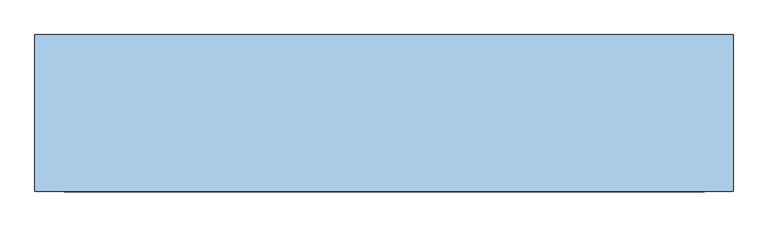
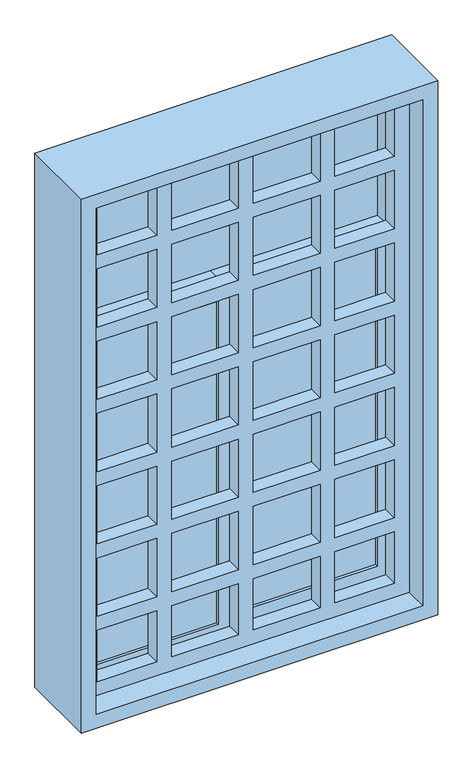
"""IFC4 building model written with IfcOpenShell, lengths in millimetres: window geometry, LC9_带格栅 : LC9_带格栅."""

from ifc_helpers import new_model, si_unit, frame, origin, place, context, project, spatial, polyline, outline, extrude, source, transform, mapped, element, save


def window_f154a97f(model_context):
    return source(origin(), model_context, "Body", "SweptSolid", [
        extrude(outline(polyline([(3350.0, 550.0), (3350.0, -550.0), (1550.0, -550.0), (1550.0, 550.0), (3350.0, 550.0)]), holes=[polyline([(3300.0, -300.0), (3117.8571429, -300.0), (3117.8571429, -500.0), (3300.0, -500.0), (3300.0, -300.0)]), polyline([(3300.0, -25.0), (3117.8571429, -25.0), (3117.8571429, -250.0), (3300.0, -250.0), (3300.0, -25.0)]), polyline([(3300.0, 250.0), (3117.8571429, 250.0), (3117.8571429, 25.0), (3300.0, 25.0), (3300.0, 250.0)]), polyline([(3300.0, 500.0), (3117.8571429, 500.0), (3117.8571429, 300.0), (3300.0, 300.0), (3300.0, 500.0)]), polyline([(3067.8571429, -300.0), (2860.7142857, -300.0), (2860.7142857, -500.0), (3067.8571429, -500.0), (3067.8571429, -300.0)]), polyline([(3067.8571429, -25.0), (2860.7142857, -25.0), (2860.7142857, -250.0), (3067.8571429, -250.0), (3067.8571429, -25.0)]), polyline([(3067.8571429, 250.0), (2860.7142857, 250.0), (2860.7142857, 25.0), (3067.8571429, 25.0), (3067.8571429, 250.0)]), polyline([(3067.8571429, 500.0), (2860.7142857, 500.0), (2860.7142857, 300.0), (3067.8571429, 300.0), (3067.8571429, 500.0)]), polyline([(2810.7142857, -300.0), (2603.5714286, -300.0), (2603.5714286, -500.0), (2810.7142857, -500.0), (2810.7142857, -300.0)]), polyline([(2810.7142857, -25.0), (2603.5714286, -25.0), (2603.5714286, -250.0), (2810.7142857, -250.0), (2810.7142857, -25.0)]), polyline([(2810.7142857, 250.0), (2603.5714286, 250.0), (2603.5714286, 25.0), (2810.7142857, 25.0), (2810.7142857, 250.0)]), polyline([(2810.7142857, 500.0), (2603.5714286, 500.0), (2603.5714286, 300.0), (2810.7142857, 300.0), (2810.7142857, 500.0)]), polyline([(2553.5714286, -300.0), (2346.4285714, -300.0), (2346.4285714, -500.0), (2553.5714286, -500.0), (2553.5714286, -300.0)]), polyline([(2553.5714286, -25.0), (2346.4285714, -25.0), (2346.4285714, -250.0), (2553.5714286, -250.0), (2553.5714286, -25.0)]), polyline([(2553.5714286, 250.0), (2346.4285714, 250.0), (2346.4285714, 25.0), (2553.5714286, 25.0), (2553.5714286, 250.0)]), polyline([(2553.5714286, 500.0), (2346.4285714, 500.0), (2346.4285714, 300.0), (2553.5714286, 300.0), (2553.5714286, 500.0)]), polyline([(2296.4285714, -300.0), (2089.2857143, -300.0), (2089.2857143, -500.0), (2296.4285714, -500.0), (2296.4285714, -300.0)]), polyline([(2296.4285714, -25.0), (2089.2857143, -25.0), (2089.2857143, -250.0), (2296.4285714, -250.0), (2296.4285714, -25.0)]), polyline([(2296.4285714, 250.0), (2089.2857143, 250.0), (2089.2857143, 25.0), (2296.4285714, 25.0), (2296.4285714, 250.0)]), polyline([(2296.4285714, 500.0), (2089.2857143, 500.0), (2089.2857143, 300.0), (2296.4285714, 300.0), (2296.4285714, 500.0)]), polyline([(2039.2857143, -300.0), (1832.1428571, -300.0), (1832.1428571, -500.0), (2039.2857143, -500.0), (2039.2857143, -300.0)]), polyline([(2039.2857143, -25.0), (1832.1428571, -25.0), (1832.1428571, -250.0), (2039.2857143, -250.0), (2039.2857143, -25.0)]), polyline([(2039.2857143, 250.0), (1832.1428571, 250.0), (1832.1428571, 25.0), (2039.2857143, 25.0), (2039.2857143, 250.0)]), polyline([(2039.2857143, 500.0), (1832.1428571, 500.0), (1832.1428571, 300.0), (2039.2857143, 300.0), (2039.2857143, 500.0)]), polyline([(1782.1428571, -300.0), (1600.0, -300.0), (1600.0, -500.0), (1782.1428571, -500.0), (1782.1428571, -300.0)]), polyline([(1782.1428571, -25.0), (1600.0, -25.0), (1600.0, -250.0), (1782.1428571, -250.0), (1782.1428571, -25.0)]), polyline([(1782.1428571, 250.0), (1600.0, 250.0), (1600.0, 25.0), (1782.1428571, 25.0), (1782.1428571, 250.0)]), polyline([(1782.1428571, 500.0), (1600.0, 500.0), (1600.0, 300.0), (1782.1428571, 300.0), (1782.1428571, 500.0)])]), frame((0.0, -46.3011339, 0.0), z_axis=(0.0, 1.0, 0.0), x_axis=(0.0, 0.0, 1.0)), (0.0, 0.0, 1.0), 50.0),
        extrude(outline(polyline([(500.0, 63.7293154), (50.0, 63.7293154), (50.0, 68.7293154), (500.0, 68.7293154), (500.0, 63.7293154)])), frame((0.0, 0.0, 1600.0), z_axis=(0.0, 0.0, 1.0), x_axis=(1.0, 0.0, 0.0)), (0.0, 0.0, 1.0), 1150.0),
        extrude(outline(polyline([(-50.0, 38.7597648), (-500.0, 38.7597648), (-500.0, 43.7293154), (-50.0, 43.7293154), (-50.0, 38.7597648)])), frame((0.0, 0.0, 1600.0), z_axis=(0.0, 0.0, 1.0), x_axis=(1.0, 0.0, 0.0)), (0.0, 0.0, 1.0), 1150.0),
        extrude(outline(polyline([(3300.0, -6.8493518), (3300.0, -500.0), (2850.0, -500.0), (2850.0, -29.856949), (2850.0, 500.0), (3300.0, 500.0), (3300.0, -6.8493518)])), frame((0.0, 51.1988661, 0.0), z_axis=(0.0, 1.0, 0.0), x_axis=(0.0, 0.0, 1.0)), (0.0, 0.0, 1.0), 5.0),
        extrude(outline(polyline([(2800.0, 550.0), (2800.0, 0.0), (1550.0, 0.0), (1550.0, 550.0), (2800.0, 550.0)]), holes=[polyline([(2750.0, 500.0), (1600.0, 500.0), (1600.0, 50.0), (2750.0, 50.0), (2750.0, 500.0)])]), frame((0.0, 53.7293154, 0.0), z_axis=(0.0, 1.0, 0.0), x_axis=(0.0, 0.0, 1.0)), (0.0, 0.0, 1.0), 24.9695506),
        extrude(outline(polyline([(2800.0, 0.0), (2800.0, -550.0), (1550.0, -550.0), (1550.0, 0.0), (2800.0, 0.0)]), holes=[polyline([(2750.0, -50.0), (1600.0, -50.0), (1600.0, -500.0), (2750.0, -500.0), (2750.0, -50.0)])]), frame((0.0, 28.7597648, 0.0), z_axis=(0.0, 1.0, 0.0), x_axis=(0.0, 0.0, 1.0)), (0.0, 0.0, 1.0), 24.9391013),
        extrude(outline(polyline([(3350.0, 550.0), (3350.0, -550.0), (2800.0, -550.0), (2800.0, 1.4599267), (2800.0, 550.0), (3350.0, 550.0)]), holes=[polyline([(3300.0, -42.6389475), (3300.0, 500.0), (2850.0, 500.0), (2850.0, -63.7820671), (2850.0, -500.0), (3300.0, -500.0), (3300.0, -42.6389475)])]), frame((0.0, 3.6988661, 0.0), z_axis=(0.0, 1.0, 0.0), x_axis=(0.0, 0.0, 1.0)), (0.0, 0.0, 1.0), 100.0),
        extrude(outline(polyline([(3400.0, 600.0), (3400.0, -600.0), (1500.0, -600.0), (1500.0, 600.0), (3400.0, 600.0)]), holes=[polyline([(3350.0, 550.0), (1550.0, 550.0), (1550.0, -550.0), (3350.0, -550.0), (3350.0, 550.0)])]), frame((0.0, -126.3011339, 0.0), z_axis=(0.0, 1.0, 0.0), x_axis=(0.0, 0.0, 1.0)), (0.0, 0.0, 1.0), 270.0),
    ])


if __name__ == "__main__":
    model = new_model("IFC4")
    model_context = context("Model", 3, world=origin())
    ifc_project = project(units=[si_unit("LENGTHUNIT", "METRE", prefix="MILLI")], contexts=[model_context])
    site = spatial("IfcSite", under=ifc_project)
    building = spatial("IfcBuilding", under=site)
    placement = place(None, origin())
    window_shape = window_f154a97f(model_context)
    element("IfcWindow", 1, ObjectType="LC9_带格栅 : LC9_带格栅", at=placement, inside=building, context=model_context, shape_type="MappedRepresentation", body=[
        mapped(window_shape, transform((0.0, 0.0, 0.0), x_axis=(1.0, 0.0, 0.0), y_axis=(0.0, 1.0, 0.0), z_axis=(0.0, 0.0, 1.0))),
    ])
    save(model, "model.ifc")
